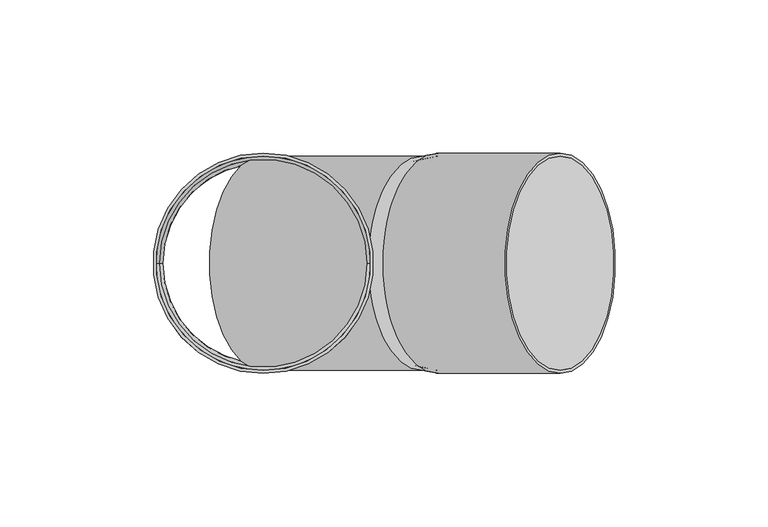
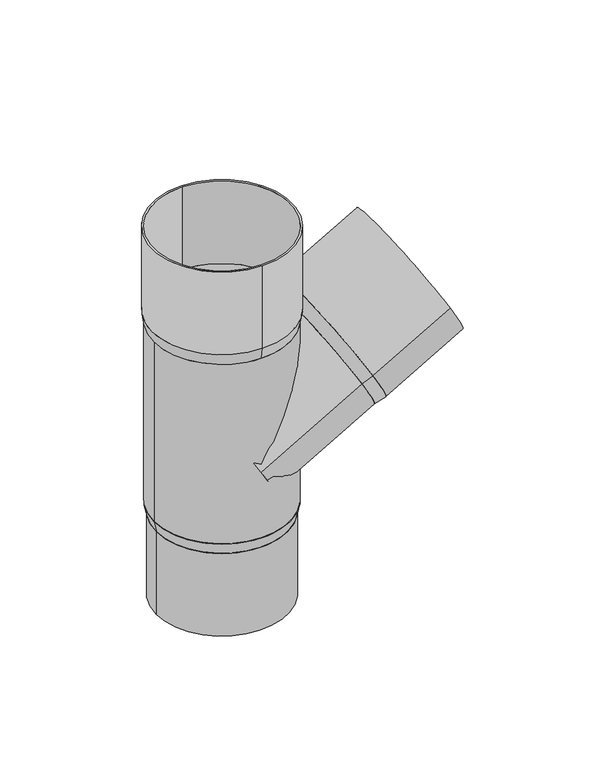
"""IFC4 building model written with IfcOpenShell, lengths in millimetres: proxy geometry, GROVIK_Downpipe_Branch : N70_60°."""

from ifc_helpers import new_model, si_unit, point, frame, origin, origin_2d, place, context, project, spatial, polyline, circle_curve, trimmed, segment, composite_curve, outline, extrude, source, transform, mapped, element, save
from ifc_brep_helpers import plane_surface, revolved_surface, advanced_brep


def generic_models_28368b10(model_context):
    return source(origin(), model_context, "Body", "SolidModel", [
        extrude(outline(composite_curve([segment(trimmed(circle_curve(origin_2d(), 36.0), [point((0.0, 36.0))], [point((0.0, -36.0))], False, "CARTESIAN"), True, "CONTINUOUS"), segment(trimmed(circle_curve(origin_2d(), 36.0), [point((0.0, -36.0))], [point((0.0, 36.0))], False, "CARTESIAN"), True, "CONTINUOUS")], self_intersect=False), holes=[composite_curve([segment(trimmed(circle_curve(origin_2d(), 35.0), [point((0.0, 35.0))], [point((0.0, -35.0))], True, "CARTESIAN"), True, "CONTINUOUS"), segment(trimmed(circle_curve(origin_2d(), 35.0), [point((0.0, -35.0))], [point((0.0, 35.0))], True, "CARTESIAN"), True, "CONTINUOUS")], self_intersect=False)]), frame((57.1576766, 0.0, 20.0), z_axis=(0.8660254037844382, 0.0, 0.5000000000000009), x_axis=(0.5000000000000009, 0.0, -0.8660254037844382)), (0.0, 0.0, 1.0), 46.0),
        advanced_brep(
        [(51.9615242, -35.0, 17.0), (51.9615242, 35.0, 17.0), (51.9615242, 33.9, 17.0), (51.9615242, -33.9, 17.0), (57.1576766, -36.0, 20.0), (57.1576766, 36.0, 20.0), (57.1576766, -35.0, 20.0), (57.1576766, 35.0, 20.0)],
        [
            (0, 1, circle_curve(frame((51.9615242, 0.0, 17.0), z_axis=(-0.8660254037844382, 0.0, -0.5000000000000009), x_axis=(0.0, -1.0, 0.0)), 35.0)),
            (1, 0, circle_curve(frame((51.9615242, 0.0, 17.0), z_axis=(-0.8660254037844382, 0.0, -0.5000000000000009), x_axis=(0.0, 1.0, 0.0)), 35.0)),
            (2, 3, circle_curve(frame((51.9615242, 0.0, 17.0), z_axis=(0.8660254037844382, 0.0, 0.5000000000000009), x_axis=(0.0, -1.0, 0.0)), 33.9)),
            (3, 2, circle_curve(frame((51.9615242, 0.0, 17.0), z_axis=(0.8660254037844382, 0.0, 0.5000000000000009), x_axis=(0.0, 1.0, 0.0)), 33.9)),
            (4, 5, circle_curve(frame((57.1576766, 0.0, 20.0), z_axis=(0.8660254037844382, 0.0, 0.5000000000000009), x_axis=(0.0, 1.0, 0.0)), 36.0)),
            (5, 4, circle_curve(frame((57.1576766, 0.0, 20.0), z_axis=(0.8660254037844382, 0.0, 0.5000000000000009), x_axis=(0.0, -1.0, 0.0)), 36.0)),
            (6, 7, circle_curve(frame((57.1576766, 0.0, 20.0), z_axis=(-0.8660254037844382, 0.0, -0.5000000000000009), x_axis=(0.0, -1.0, 0.0)), 35.0)),
            (7, 6, circle_curve(frame((57.1576766, 0.0, 20.0), z_axis=(-0.8660254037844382, 0.0, -0.5000000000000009), x_axis=(0.0, 1.0, 0.0)), 35.0)),
            (0, 4),
            (5, 1),
            (6, 3),
            (2, 7),
        ],
        [
            plane_surface(frame((51.9615242, 0.0, 17.0), z_axis=(-0.8660254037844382, 0.0, -0.5000000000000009), x_axis=(-0.5000000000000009, 0.0, 0.8660254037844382))),
            plane_surface(frame((57.1576766, 0.0, 20.0), z_axis=(0.8660254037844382, 0.0, 0.5000000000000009), x_axis=(-0.5000000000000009, 0.0, 0.8660254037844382))),
            revolved_surface(polyline([(51.96152419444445, -35.000000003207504, 17.00000000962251), (57.1576766, -36.0, 20.0)]), (-129.9038106, 0.0, -88.0), (0.8660254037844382, 0.0, 0.5000000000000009)),
            revolved_surface(polyline([(51.96152419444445, 35.000000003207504, 17.00000000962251), (57.1576766, 36.0, 20.0)]), (-129.9038106, 0.0, -88.0), (0.8660254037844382, 0.0, 0.5000000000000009)),
            revolved_surface(polyline([(57.1576766, -35.0, 20.0), (51.96152419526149, -33.9000000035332, 17.000000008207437)]), (-108.1744459, 0.0, -75.4545455), (0.8660254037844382, 0.0, 0.5000000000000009)),
        ],
        [
            (0, [[1, 2], [3, 4]]),
            (1, [[5, 6], [7, 8]]),
            (2, [[-1, 9, -6, 10]]),
            (3, [[-2, -10, -5, -9]]),
            (4, [[11, -3, 12, -7]]),
            (4, [[-11, -8, -12, -4]]),
        ],
    ),
        extrude(outline(composite_curve([segment(trimmed(circle_curve(origin_2d(), 35.0), [point((0.0, 35.0))], [point((0.0, -35.0))], False, "CARTESIAN"), True, "CONTINUOUS"), segment(trimmed(circle_curve(origin_2d(), 35.0), [point((0.0, -35.0))], [point((0.0, 35.0))], False, "CARTESIAN"), True, "CONTINUOUS")], self_intersect=False), holes=[composite_curve([segment(trimmed(circle_curve(origin_2d(), 33.9), [point((0.0, 33.9))], [point((0.0, -33.9))], True, "CARTESIAN"), True, "CONTINUOUS"), segment(trimmed(circle_curve(origin_2d(), 33.9), [point((0.0, -33.9))], [point((0.0, 33.9))], True, "CARTESIAN"), True, "CONTINUOUS")], self_intersect=False)]), frame((0.0, 0.0, -13.0), z_axis=(0.8660254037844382, 0.0, 0.5000000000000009), x_axis=(0.5000000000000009, 0.0, -0.8660254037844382)), (0.0, 0.0, 1.0), 60.0),
        extrude(outline(composite_curve([segment(trimmed(circle_curve(origin_2d(), 36.0), [point((0.0, 36.0))], [point((0.0, -36.0))], False, "CARTESIAN"), True, "CONTINUOUS"), segment(trimmed(circle_curve(origin_2d(), 36.0), [point((0.0, -36.0))], [point((0.0, 36.0))], False, "CARTESIAN"), True, "CONTINUOUS")], self_intersect=False), holes=[composite_curve([segment(trimmed(circle_curve(origin_2d(), 35.0), [point((0.0, 35.0))], [point((0.0, -35.0))], True, "CARTESIAN"), True, "CONTINUOUS"), segment(trimmed(circle_curve(origin_2d(), 35.0), [point((0.0, -35.0))], [point((0.0, 35.0))], True, "CARTESIAN"), True, "CONTINUOUS")], self_intersect=False)]), frame((0.0, 0.0, 55.0), z_axis=(0.0, 0.0, 1.0), x_axis=(1.0, 0.0, 0.0)), (0.0, 0.0, 1.0), 45.0),
        extrude(outline(composite_curve([segment(trimmed(circle_curve(origin_2d(), 33.75), [point((33.75, 0.0))], [point((-33.75, 0.0))], False, "CARTESIAN"), True, "CONTINUOUS"), segment(trimmed(circle_curve(origin_2d(), 33.75), [point((-33.75, 0.0))], [point((33.75, 0.0))], False, "CARTESIAN"), True, "CONTINUOUS")], self_intersect=False), holes=[composite_curve([segment(trimmed(circle_curve(origin_2d(), 32.75), [point((32.75, 0.0))], [point((-32.75, 0.0))], True, "CARTESIAN"), True, "CONTINUOUS"), segment(trimmed(circle_curve(origin_2d(), 32.75), [point((-32.75, 0.0))], [point((32.75, 0.0))], True, "CARTESIAN"), True, "CONTINUOUS")], self_intersect=False)]), frame((0.0, 0.0, -100.0), z_axis=(0.0, 0.0, 1.0), x_axis=(1.0, 0.0, 0.0)), (0.0, 0.0, 1.0), 45.0),
        advanced_brep(
        [(35.0, 0.0, -49.0), (-35.0, 0.0, -49.0), (-34.0, 0.0, -49.0), (34.0, 0.0, -49.0), (33.75, 0.0, -55.0), (-33.75, 0.0, -55.0), (32.75, 0.0, -55.0), (-32.75, 0.0, -55.0)],
        [
            (0, 1, circle_curve(frame((0.0, 0.0, -49.0), z_axis=(0.0, 0.0, 1.0), x_axis=(1.0, 0.0, 0.0)), 35.0)),
            (1, 0, circle_curve(frame((0.0, 0.0, -49.0), z_axis=(0.0, 0.0, 1.0), x_axis=(-1.0, 0.0, 0.0)), 35.0)),
            (2, 3, circle_curve(frame((0.0, 0.0, -49.0), z_axis=(0.0, 0.0, -1.0), x_axis=(1.0, 0.0, 0.0)), 34.0)),
            (3, 2, circle_curve(frame((0.0, 0.0, -49.0), z_axis=(0.0, 0.0, -1.0), x_axis=(-1.0, 0.0, 0.0)), 34.0)),
            (4, 5, circle_curve(frame((0.0, 0.0, -55.0), z_axis=(0.0, 0.0, -1.0), x_axis=(-1.0, 0.0, 0.0)), 33.75)),
            (5, 4, circle_curve(frame((0.0, 0.0, -55.0), z_axis=(0.0, 0.0, -1.0), x_axis=(1.0, 0.0, 0.0)), 33.75)),
            (6, 7, circle_curve(frame((0.0, 0.0, -55.0), z_axis=(0.0, 0.0, 1.0), x_axis=(1.0, 0.0, 0.0)), 32.75)),
            (7, 6, circle_curve(frame((0.0, 0.0, -55.0), z_axis=(0.0, 0.0, 1.0), x_axis=(-1.0, 0.0, 0.0)), 32.75)),
            (0, 4),
            (5, 1),
            (6, 3),
            (2, 7),
        ],
        [
            plane_surface(frame((0.0, 0.0, -49.0), z_axis=(0.0, 0.0, 1.0), x_axis=(0.0, 1.0, 0.0))),
            plane_surface(frame((0.0, 0.0, -55.0), z_axis=(0.0, 0.0, -1.0), x_axis=(0.0, 1.0, 0.0))),
            revolved_surface(polyline([(-33.75, 0.0, -55.0), (-35.0, 0.0, -49.0)]), (0.0, 0.0, -217.0), (0.0, 0.0, 1.0)),
            revolved_surface(polyline([(33.75, 0.0, -55.0), (35.0, 0.0, -49.0)]), (0.0, 0.0, -217.0), (0.0, 0.0, 1.0)),
            revolved_surface(polyline([(34.0, 0.0, -49.0), (32.75, 0.0, -55.0)]), (0.0, 0.0, -212.2), (0.0, 0.0, 1.0)),
        ],
        [
            (0, [[1, 2], [3, 4]]),
            (1, [[5, 6], [7, 8]]),
            (2, [[-1, 9, -6, 10]]),
            (3, [[-2, -10, -5, -9]]),
            (4, [[11, -3, 12, -7]]),
            (4, [[-11, -8, -12, -4]]),
        ],
    ),
        advanced_brep(
        [(0.0, 36.0, 55.0), (0.0, -36.0, 55.0), (-35.0, 0.0, 55.0), (35.0, 0.0, 55.0), (0.0, 35.0, 49.0), (0.0, -35.0, 49.0), (34.0, 0.0, 49.0), (-34.0, 0.0, 49.0)],
        [
            (0, 1, circle_curve(frame((0.0, 0.0, 55.0), z_axis=(0.0, 0.0, 1.0), x_axis=(0.0, 1.0, 0.0)), 36.0)),
            (1, 0, circle_curve(frame((0.0, 0.0, 55.0), z_axis=(0.0, 0.0, 1.0), x_axis=(0.0, -1.0, 0.0)), 36.0)),
            (2, 3, circle_curve(frame((0.0, 0.0, 55.0), z_axis=(0.0, 0.0, -1.0), x_axis=(-1.0, 0.0, 0.0)), 35.0)),
            (3, 2, circle_curve(frame((0.0, 0.0, 55.0), z_axis=(0.0, 0.0, -1.0), x_axis=(1.0, 0.0, 0.0)), 35.0)),
            (4, 5, circle_curve(frame((0.0, 0.0, 49.0), z_axis=(0.0, 0.0, -1.0), x_axis=(0.0, -1.0, 0.0)), 35.0)),
            (5, 4, circle_curve(frame((0.0, 0.0, 49.0), z_axis=(0.0, 0.0, -1.0), x_axis=(0.0, 1.0, 0.0)), 35.0)),
            (6, 7, circle_curve(frame((0.0, 0.0, 49.0), z_axis=(0.0, 0.0, 1.0), x_axis=(-1.0, 0.0, 0.0)), 34.0)),
            (7, 6, circle_curve(frame((0.0, 0.0, 49.0), z_axis=(0.0, 0.0, 1.0), x_axis=(1.0, 0.0, 0.0)), 34.0)),
            (0, 4),
            (5, 1),
            (2, 7),
            (6, 3),
        ],
        [
            plane_surface(frame((0.0, 0.0, 55.0), z_axis=(0.0, 0.0, 1.0), x_axis=(-1.0, 0.0, 0.0))),
            plane_surface(frame((0.0, 0.0, 49.0), z_axis=(0.0, 0.0, -1.0), x_axis=(-1.0, 0.0, 0.0))),
            revolved_surface(polyline([(0.0, -35.0, 49.0), (0.0, -36.0, 55.0)]), (0.0, 0.0, -161.0), (0.0, 0.0, 1.0)),
            revolved_surface(polyline([(0.0, 35.0, 49.0), (0.0, 36.0, 55.0)]), (0.0, 0.0, -161.0), (0.0, 0.0, 1.0)),
            revolved_surface(polyline([(-35.0, 0.0, 55.0), (-34.0, 0.0, 49.0)]), (0.0, 0.0, -155.0), (0.0, 0.0, 1.0)),
        ],
        [
            (0, [[1, 2], [3, 4]]),
            (1, [[5, 6], [7, 8]]),
            (2, [[-1, 9, -6, 10]]),
            (3, [[-2, -10, -5, -9]]),
            (4, [[11, -7, 12, -3]]),
            (4, [[-11, -4, -12, -8]]),
        ],
    ),
        extrude(outline(composite_curve([segment(trimmed(circle_curve(origin_2d(), 35.0), [point((-35.0, 0.0))], [point((35.0, 0.0))], False, "CARTESIAN"), True, "CONTINUOUS"), segment(trimmed(circle_curve(origin_2d(), 35.0), [point((35.0, 0.0))], [point((-35.0, 0.0))], False, "CARTESIAN"), True, "CONTINUOUS")], self_intersect=False), holes=[composite_curve([segment(trimmed(circle_curve(origin_2d(), 34.0), [point((-34.0, 0.0))], [point((34.0, 0.0))], True, "CARTESIAN"), True, "CONTINUOUS"), segment(trimmed(circle_curve(origin_2d(), 34.0), [point((34.0, 0.0))], [point((-34.0, 0.0))], True, "CARTESIAN"), True, "CONTINUOUS")], self_intersect=False)]), frame((0.0, 0.0, -49.0), z_axis=(0.0, 0.0, 1.0), x_axis=(1.0, 0.0, 0.0)), (0.0, 0.0, 1.0), 98.0),
    ])


if __name__ == "__main__":
    model = new_model("IFC4")
    model_context = context("Model", 3, world=origin())
    ifc_project = project(units=[si_unit("LENGTHUNIT", "METRE", prefix="MILLI")], contexts=[model_context])
    site = spatial("IfcSite", under=ifc_project)
    building = spatial("IfcBuilding", under=site)
    placement = place(None, origin())
    generic_models_shape = generic_models_28368b10(model_context)
    element("IfcBuildingElementProxy", 1, Name="GROVIK_Downpipe_Branch : N70_60°", ObjectType="GROVIK_Downpipe_Branch : N70_60°", at=placement, inside=building, context=model_context, shape_type="MappedRepresentation", body=[
        mapped(generic_models_shape, transform((0.0, 0.0, 0.0), x_axis=(1.0, 0.0, 0.0), y_axis=(0.0, 1.0, 0.0), z_axis=(0.0, 0.0, 1.0))),
    ])
    save(model, "model.ifc")
